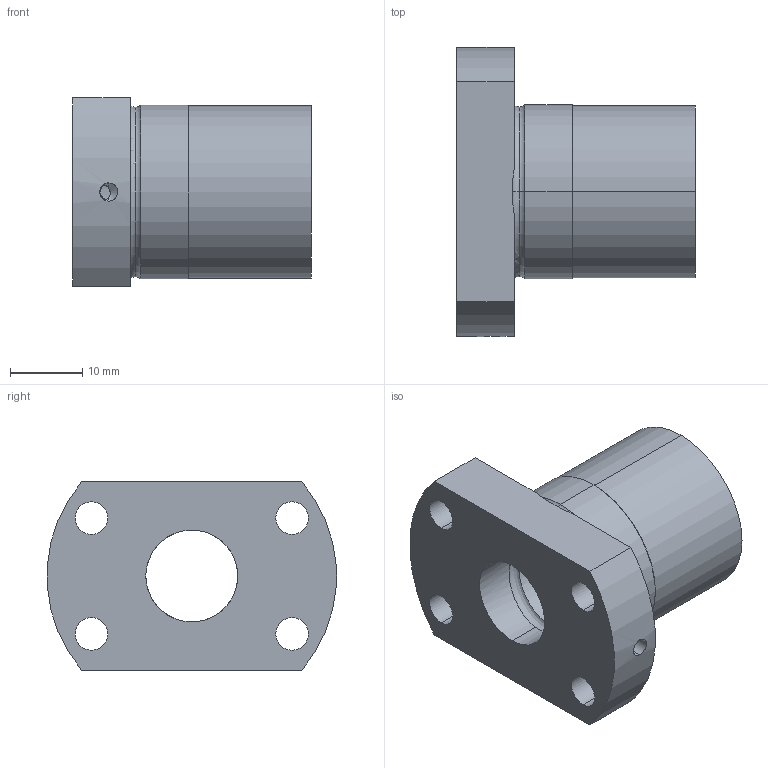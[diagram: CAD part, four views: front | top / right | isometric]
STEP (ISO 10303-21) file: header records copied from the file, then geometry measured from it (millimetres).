
FILE_DESCRIPTION (( 'STEP AP214' ), '1' );
FILE_NAME ('LLE1205-F.STEP', '2020-12-17T06:23:37', ( 'user' ), ( 'datathink' ), 'SwSTEP 2.0', 'SolidWorks 2013', '' );
FILE_SCHEMA (( 'AUTOMOTIVE_DESIGN' ));
Length unit declared in the file: millimetre
Products named in the file (1): LLE1205-F
Bounding box: 33 x 39.94 x 26 mm (x, y, z)
Volume: 13851.7 mm3; surface area: 6410.9 mm2
Topology: 1 solids, 1 shells, 46 faces, 123 edges, 80 vertices
Faces by surface type: cylinder 30, plane 9, torus 4, cone 2, bspline 1
Entity records: 2258 total; most frequent: CARTESIAN_POINT 1094, ORIENTED_EDGE 246, DIRECTION 221, EDGE_CURVE 123, AXIS2_PLACEMENT_3D 90, VERTEX_POINT 80, EDGE_LOOP 59, ADVANCED_FACE 46
